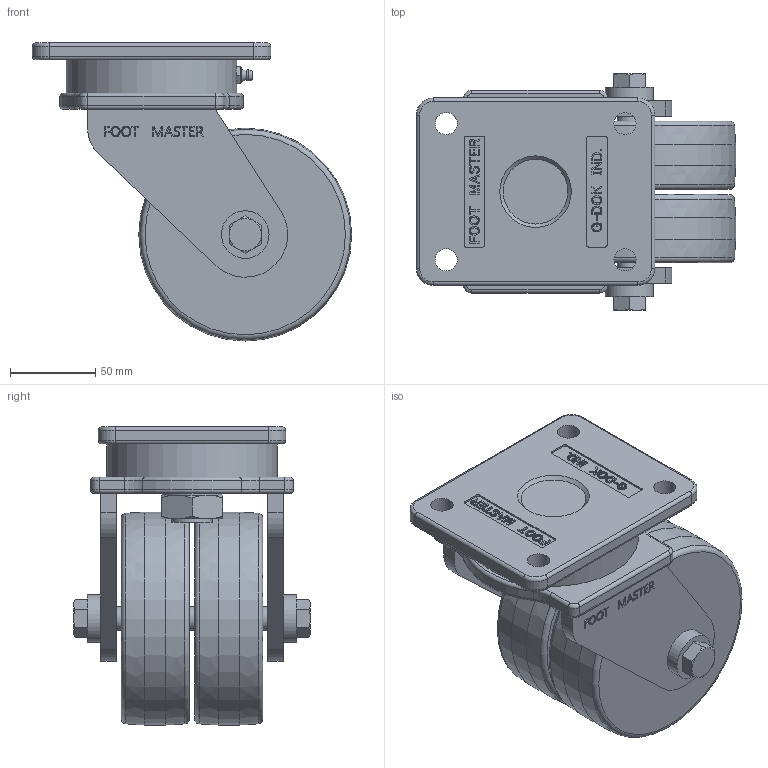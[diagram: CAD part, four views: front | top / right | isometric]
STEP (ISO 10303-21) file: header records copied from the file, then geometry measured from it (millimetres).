
FILE_DESCRIPTION((''),'2;1');
FILE_NAME('E:\GXTT\가져온 구성요소\GXTT-125 SF-3D\GXTT-125-ASF.stp','2011-11-21T09:46:34',('Administrator'),(''),'Autodesk Inventor 2011','Autodesk Inventor 2011','');
FILE_SCHEMA(('AUTOMOTIVE_DESIGN { 1 0 10303 214 1 1 1 1 }'));
Length unit declared in the file: millimetre
Products named in the file (1): GXTT-125-ASF
Bounding box: 187.5 x 139 x 175 mm (x, y, z)
Surface area: 165769.5 mm2
Topology: 2 solids, 3 shells, 834 faces, 2190 edges, 1433 vertices
Faces by surface type: plane 431, bspline 265, cylinder 66, cone 38, torus 34
Full cylindrical faces by diameter (mm): 1 x1, 4 x1, 5.153 x1, 13 x4, 14 x3, 24 x2, 28 x2, 34.8 x1, 100 x1, 125 x2
Entity records: 26624 total; most frequent: CARTESIAN_POINT 8067, ORIENTED_EDGE 4286, DIRECTION 2907, EDGE_CURVE 2143, VERTEX_POINT 1422, VECTOR 1327, LINE 1327, EDGE_LOOP 957
